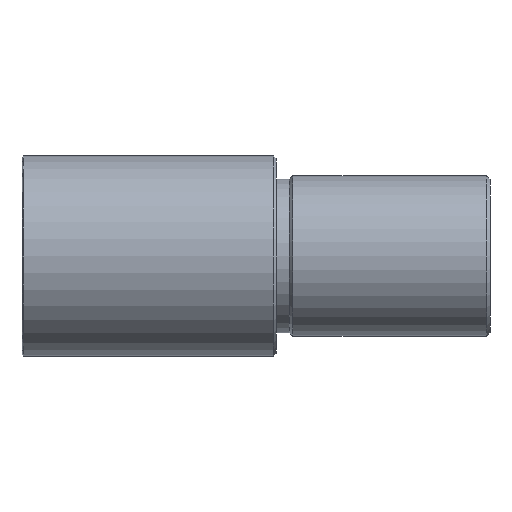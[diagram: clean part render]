
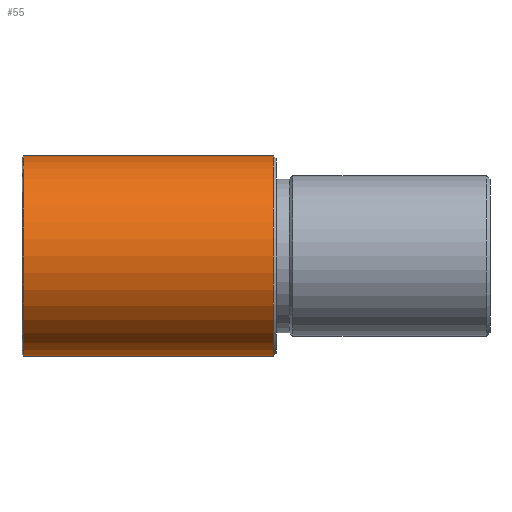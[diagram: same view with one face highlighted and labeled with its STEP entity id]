
A CAD part, front view. The second image highlights one B-rep face of the part: STEP entity #55.
In plain terms, the highlighted cylindrical face has radius 7.5 mm (diameter 15 mm), a partial arc.
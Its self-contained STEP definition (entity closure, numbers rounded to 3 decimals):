
#55 = ADVANCED_FACE ( 'NONE', ( #1011 ), #1159, .T. ) ;
#62 = CARTESIAN_POINT ( 'NONE',  ( -21.2, 0., 7.5 ) ) ;
#159 = ORIENTED_EDGE ( 'NONE', *, *, #471, .F. ) ;
#215 = CIRCLE ( 'NONE', #967, 7.5 ) ;
#235 = DIRECTION ( 'NONE',  ( 1., 0., 0. ) ) ;
#247 = LINE ( 'NONE', #1140, #1298 ) ;
#264 = EDGE_CURVE ( 'NONE', #650, #568, #215, .T. ) ;
#330 = DIRECTION ( 'NONE',  ( 1., 0., 0. ) ) ;
#363 = DIRECTION ( 'NONE',  ( 1., 0., 0. ) ) ;
#381 = VECTOR ( 'NONE', #330, 1000. ) ;
#406 = EDGE_CURVE ( 'NONE', #568, #1049, #247, .T. ) ;
#437 = CARTESIAN_POINT ( 'NONE',  ( 0., 0., 7.5 ) ) ;
#455 = CARTESIAN_POINT ( 'NONE',  ( -39.9, 0., -7.5 ) ) ;
#471 = EDGE_CURVE ( 'NONE', #650, #604, #953, .T. ) ;
#496 = DIRECTION ( 'NONE',  ( 0., 0., -1. ) ) ;
#568 = VERTEX_POINT ( 'NONE', #455 ) ;
#604 = VERTEX_POINT ( 'NONE', #62 ) ;
#616 = ORIENTED_EDGE ( 'NONE', *, *, #987, .F. ) ;
#617 = EDGE_LOOP ( 'NONE', ( #159, #1288, #1168, #616 ) ) ;
#650 = VERTEX_POINT ( 'NONE', #1302 ) ;
#660 = DIRECTION ( 'NONE',  ( 0., 0., -1. ) ) ;
#695 = CARTESIAN_POINT ( 'NONE',  ( -39.9, 0., 0. ) ) ;
#751 = CIRCLE ( 'NONE', #1003, 7.5 ) ;
#917 = DIRECTION ( 'NONE',  ( 1., 0., 0. ) ) ;
#919 = CARTESIAN_POINT ( 'NONE',  ( -21.2, 0., 0. ) ) ;
#953 = LINE ( 'NONE', #437, #381 ) ;
#967 = AXIS2_PLACEMENT_3D ( 'NONE', #695, #917, #496 ) ;
#987 = EDGE_CURVE ( 'NONE', #604, #1049, #751, .T. ) ;
#1003 = AXIS2_PLACEMENT_3D ( 'NONE', #919, #1102, #1223 ) ;
#1011 = FACE_OUTER_BOUND ( 'NONE', #617, .T. ) ;
#1049 = VERTEX_POINT ( 'NONE', #1322 ) ;
#1058 = CARTESIAN_POINT ( 'NONE',  ( 0., 0., 0. ) ) ;
#1102 = DIRECTION ( 'NONE',  ( 1., 0., 0. ) ) ;
#1140 = CARTESIAN_POINT ( 'NONE',  ( 0., 0., -7.5 ) ) ;
#1159 = CYLINDRICAL_SURFACE ( 'NONE', #1183, 7.5 ) ;
#1168 = ORIENTED_EDGE ( 'NONE', *, *, #406, .T. ) ;
#1183 = AXIS2_PLACEMENT_3D ( 'NONE', #1058, #363, #660 ) ;
#1223 = DIRECTION ( 'NONE',  ( 0., 0., -1. ) ) ;
#1288 = ORIENTED_EDGE ( 'NONE', *, *, #264, .T. ) ;
#1298 = VECTOR ( 'NONE', #235, 1000. ) ;
#1302 = CARTESIAN_POINT ( 'NONE',  ( -39.9, 0., 7.5 ) ) ;
#1322 = CARTESIAN_POINT ( 'NONE',  ( -21.2, 0., -7.5 ) ) ;
